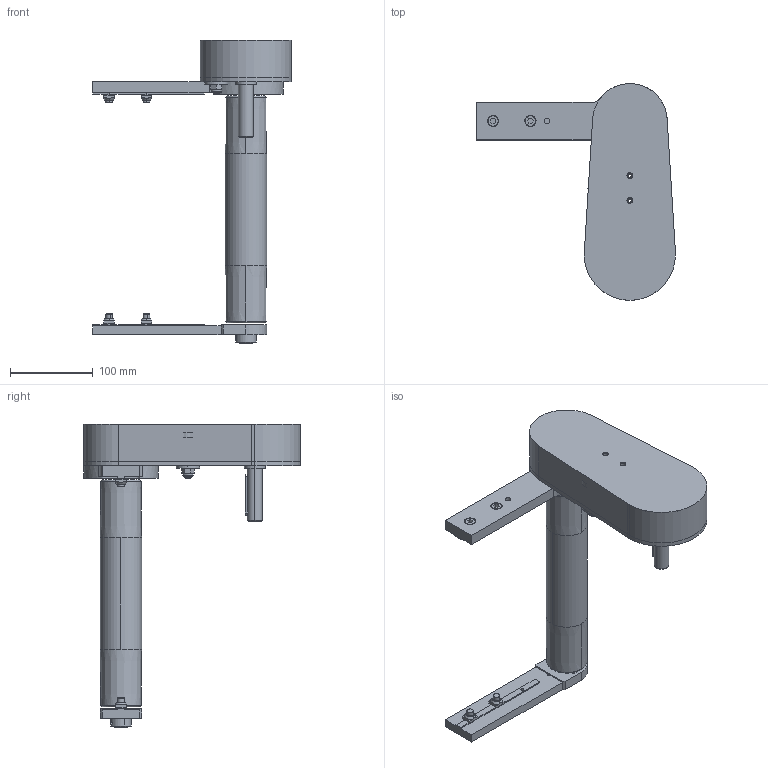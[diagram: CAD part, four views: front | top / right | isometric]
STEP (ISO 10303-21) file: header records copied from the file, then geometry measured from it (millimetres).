
FILE_DESCRIPTION (( 'STEP AP203' ), '1' );
FILE_NAME ('084.050.KTC.44.250.STEP', '2014-11-17T15:32:18', ( '' ), ( '' ), 'SwSTEP 2.0', 'SolidWorks 2012', '' );
FILE_SCHEMA (( 'CONFIG_CONTROL_DESIGN' ));
Length unit declared in the file: millimetre
Products named in the file (1): 084.050.KTC.44.250
Bounding box: 240 x 261.5 x 366 mm (x, y, z)
Surface area: 272430.2 mm2 (no closed solid volume)
Topology: 0 solids, 46 shells, 363 faces, 1163 edges, 837 vertices
Faces by surface type: plane 160, cylinder 145, cone 28, torus 22, sphere 4, bspline 4
Entity records: 13626 total; most frequent: CARTESIAN_POINT 2996, DIRECTION 2395, ORIENTED_EDGE 1867, EDGE_CURVE 1153, AXIS2_PLACEMENT_3D 934, VERTEX_POINT 831, CIRCLE 574, VECTOR 527
